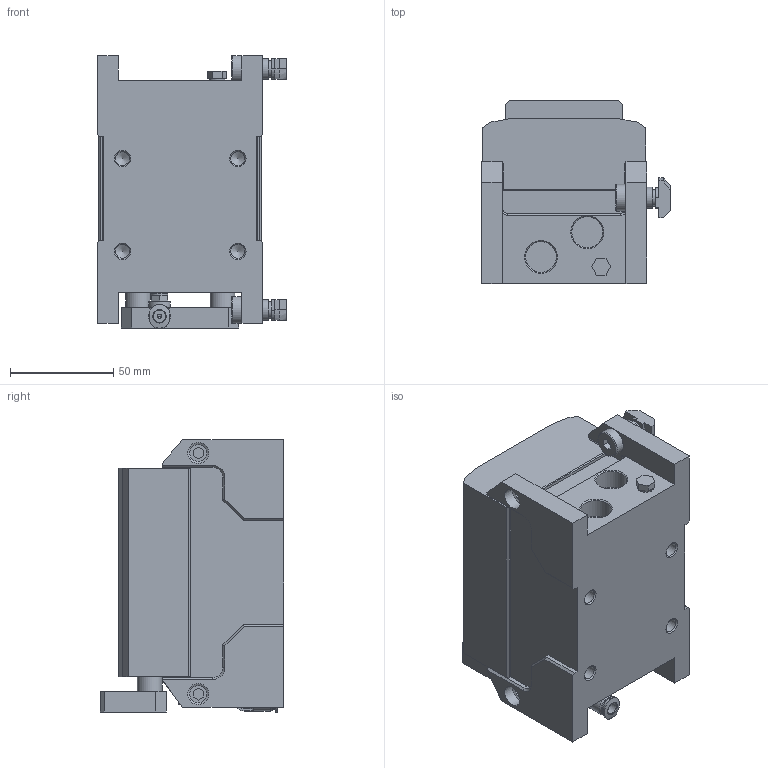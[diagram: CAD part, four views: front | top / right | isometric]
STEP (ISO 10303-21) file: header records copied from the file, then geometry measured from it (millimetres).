
FILE_DESCRIPTION (( 'STEP AP203' ), '1' );
FILE_NAME ('ASMHS-160-EW-09-I-100.STEP', '2017-03-14T09:35:17', ( '' ), ( '' ), 'SwSTEP 2.0', 'SolidWorks 2015', '' );
FILE_SCHEMA (( 'CONFIG_CONTROL_DESIGN' ));
Length unit declared in the file: millimetre
Products named in the file (1): ASMHS-160-EW-09-I-100
Bounding box: 91.5 x 89 x 132.4 mm (x, y, z)
Volume: 580628.1 mm3; surface area: 94289.5 mm2
Topology: 4 solids, 4 shells, 783 faces, 2054 edges, 1347 vertices
Faces by surface type: plane 434, cylinder 199, bspline 84, cone 54, torus 8, sphere 4
Full cylindrical faces by diameter (mm): 0.1 x4, 2.1 x2, 2.5 x1, 4.2 x1, 5 x1, 5.3 x1, 5.5 x1, 6 x3, 6.8 x4, 7.5 x1, 8 x4, 8.01 x2, 8.2 x6, 8.4 x1, 9.45 x1, 10 x2, 10.13 x2, 10.2 x4, 10.5 x2, 11 x2, 12 x2, 12.03 x3, 13 x2, 15 x2, 15.08 x1
Entity records: 29063 total; most frequent: CARTESIAN_POINT 10488, ORIENTED_EDGE 3862, DIRECTION 3550, EDGE_CURVE 1931, VERTEX_POINT 1315, LINE 1256, VECTOR 1256, AXIS2_PLACEMENT_3D 1147
